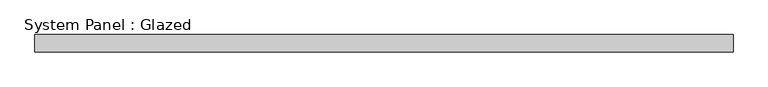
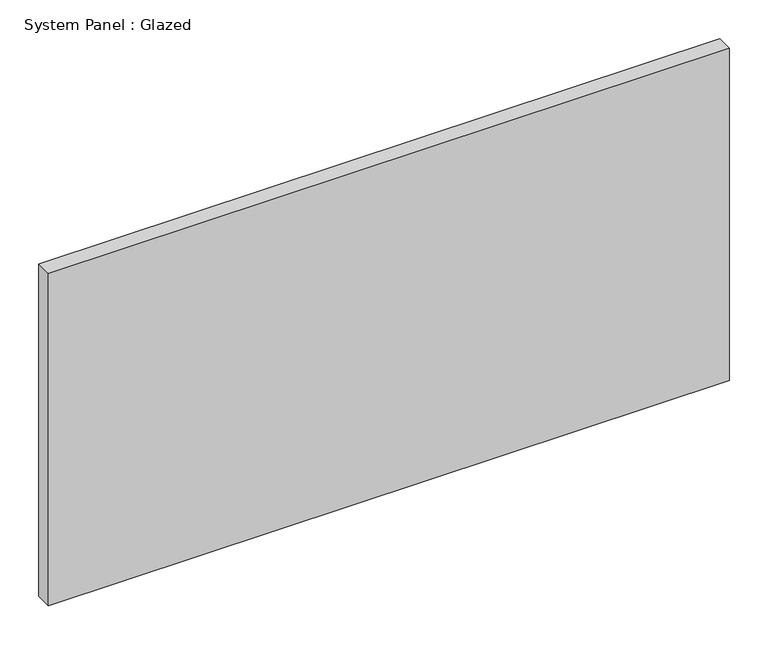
"""IFC4 building model written with IfcOpenShell, lengths in millimetres: plate geometry, System Panel : Glazed."""

from ifc_helpers import new_model, si_unit, origin, origin_with_axes, place, context, project, spatial, polyline, outline, extrude, source, transform, mapped, element, save


def system_panel_glazed_c9ca4ddb(model_context):
    return source(origin(), model_context, "Body", "SweptSolid", [
        extrude(outline(polyline([(508.3333332, -49.5), (-508.3333332, -49.5), (-508.3333332, -24.5), (508.3333332, -24.5), (508.3333332, -49.5)])), origin_with_axes(), (0.0, 0.0, 1.0), 525.0),
    ])


if __name__ == "__main__":
    model = new_model("IFC4")
    model_context = context("Model", 3, world=origin())
    ifc_project = project(units=[si_unit("LENGTHUNIT", "METRE", prefix="MILLI")], contexts=[model_context])
    site = spatial("IfcSite", under=ifc_project)
    building = spatial("IfcBuilding", under=site)
    placement = place(None, origin())
    system_panel_glazed_shape = system_panel_glazed_c9ca4ddb(model_context)
    element("IfcPlate", 1, ObjectType="System Panel : Glazed", at=placement, inside=building, context=model_context, shape_type="MappedRepresentation", body=[
        mapped(system_panel_glazed_shape, transform((0.0, 0.0, 0.0), x_axis=(1.0, 0.0, 0.0), y_axis=(0.0, 1.0, 0.0), z_axis=(0.0, 0.0, 1.0))),
    ])
    save(model, "model.ifc")
